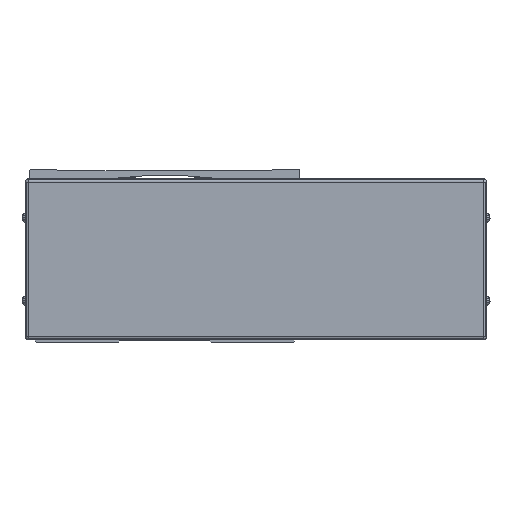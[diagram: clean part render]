
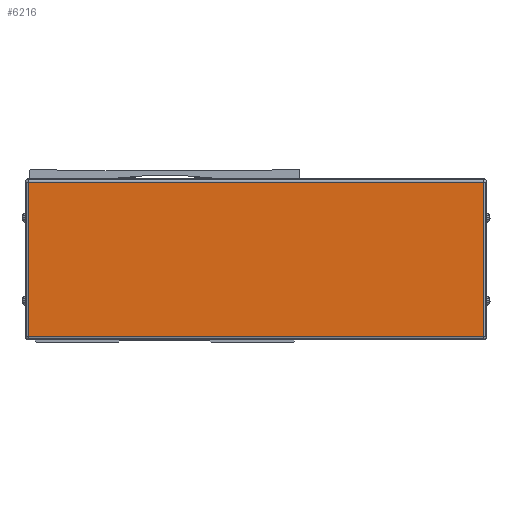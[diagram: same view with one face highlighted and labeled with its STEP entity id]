
A CAD part, front view. The second image highlights one B-rep face of the part: STEP entity #6216.
In plain terms, the highlighted planar face has unit normal (0, -1, 0).
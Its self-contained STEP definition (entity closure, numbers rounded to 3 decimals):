
#6216=ADVANCED_FACE('',(#13336),#13337,.T.);
#13336=FACE_OUTER_BOUND('',#22854,.T.);
#13337=PLANE('',#22855);
#22854=EDGE_LOOP('',(#41939,#41940,#41941,#41942));
#22855=AXIS2_PLACEMENT_3D('',#41943,#41944,#41945);
#41939=ORIENTED_EDGE('',*,*,#58113,.F.);
#41940=ORIENTED_EDGE('',*,*,#58114,.F.);
#41941=ORIENTED_EDGE('',*,*,#58115,.F.);
#41942=ORIENTED_EDGE('',*,*,#51282,.F.);
#41943=CARTESIAN_POINT('',(-545.,-122.778,-2.));
#41944=DIRECTION('',(0.,-1.0,0.));
#41945=DIRECTION('',(1.0,0.,0.));
#51282=EDGE_CURVE('',#61162,#61164,#61165,.T.);
#58113=EDGE_CURVE('',#71686,#61162,#71687,.T.);
#58114=EDGE_CURVE('',#71669,#71686,#71688,.T.);
#58115=EDGE_CURVE('',#61164,#71669,#71689,.T.);
#61162=VERTEX_POINT('',#75417);
#61164=VERTEX_POINT('',#75419);
#61165=LINE('',#75420,#75421);
#71669=VERTEX_POINT('',#91229);
#71686=VERTEX_POINT('',#91252);
#71687=LINE('',#91253,#91254);
#71688=LINE('',#91255,#91256);
#71689=LINE('',#91257,#91258);
#75417=CARTESIAN_POINT('',(-407.9,-122.778,44.5));
#75419=CARTESIAN_POINT('',(-407.9,-122.778,-48.5));
#75420=CARTESIAN_POINT('',(-407.9,-122.778,-2.));
#75421=VECTOR('',#95071,10.0);
#91229=CARTESIAN_POINT('',(-682.1,-122.778,-48.5));
#91252=CARTESIAN_POINT('',(-682.1,-122.778,44.5));
#91253=CARTESIAN_POINT('',(-545.,-122.778,44.5));
#91254=VECTOR('',#103276,10.0);
#91255=CARTESIAN_POINT('',(-682.1,-122.778,-2.));
#91256=VECTOR('',#103277,10.0);
#91257=CARTESIAN_POINT('',(-545.,-122.778,-48.5));
#91258=VECTOR('',#103278,10.0);
#95071=DIRECTION('',(0.,0.,-1.0));
#103276=DIRECTION('',(1.0,0.,0.));
#103277=DIRECTION('',(0.,0.,1.0));
#103278=DIRECTION('',(-1.0,0.,0.));
